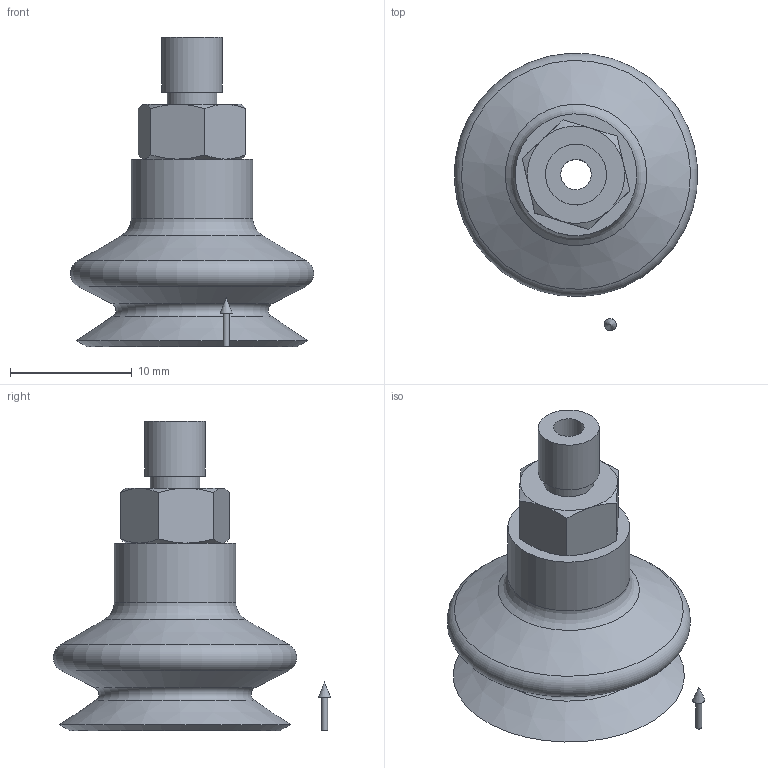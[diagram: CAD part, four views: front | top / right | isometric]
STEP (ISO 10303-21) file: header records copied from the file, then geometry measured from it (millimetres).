
FILE_DESCRIPTION(('STEP AP214'),'1');
FILE_NAME('KIT.08.30.D20.4.stp','2019-05-28T06:19:20',(' '),(' '),'Spatial InterOp 3D',' ',' ');
FILE_SCHEMA(('AUTOMOTIVE_DESIGN { 1 0 10303 214 1 1 1 1 }'));
Length unit declared in the file: millimetre
Products named in the file (3): KIT.08.30.D20.4; CA.08.09.004 ; CA.08.30.004
Assembly tree (2 placements, depth 2):
  KIT.08.30.D20.4
    CA.08.09.004 
    CA.08.30.004
Bounding box: 19.97 x 22.77 x 25.4 mm (x, y, z)
Volume: 1727.2 mm3; surface area: 2457.6 mm2
Topology: 3 solids, 3 shells, 51 faces, 106 edges, 66 vertices
Faces by surface type: cone 21, plane 17, cylinder 8, torus 5
Full cylindrical faces by diameter (mm): 0.5 x1, 2.5 x1, 4 x1, 4.1 x1, 4.7 x1, 5 x1, 5.16 x1, 10 x1
Entity records: 1656 total; most frequent: CARTESIAN_POINT 263, DIRECTION 200, ORIENTED_EDGE 146, AXIS2_PLACEMENT_3D 97, EDGE_LOOP 82, EDGE_CURVE 73, FACE_OUTER_BOUND 64, VERTEX_POINT 56
